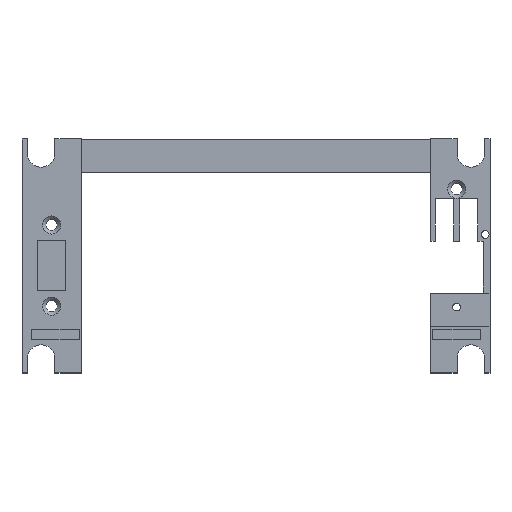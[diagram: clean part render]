
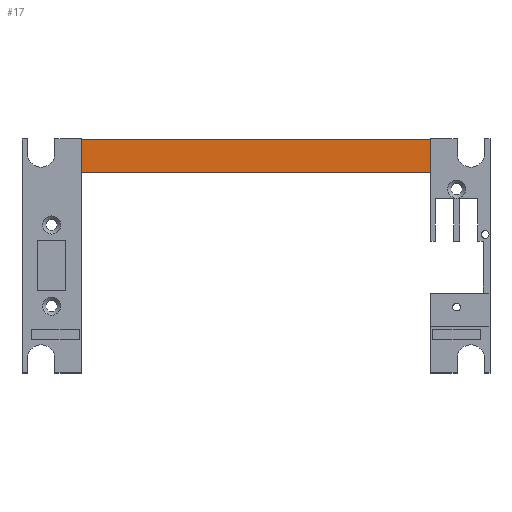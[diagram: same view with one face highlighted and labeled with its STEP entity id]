
A CAD part, top view. The second image highlights one B-rep face of the part: STEP entity #17.
In plain terms, the highlighted planar face has unit normal (0, 0, 1).
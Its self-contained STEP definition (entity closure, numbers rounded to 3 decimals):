
#17 = ADVANCED_FACE('',(#18),#52,.T.);
#18 = FACE_BOUND('',#19,.T.);
#19 = EDGE_LOOP('',(#20,#30,#38,#46));
#20 = ORIENTED_EDGE('',*,*,#21,.F.);
#21 = EDGE_CURVE('',#22,#24,#26,.T.);
#22 = VERTEX_POINT('',#23);
#23 = CARTESIAN_POINT('',(-36.6,128.,7.5));
#24 = VERTEX_POINT('',#25);
#25 = CARTESIAN_POINT('',(-36.6,135.,7.5));
#26 = LINE('',#27,#28);
#27 = CARTESIAN_POINT('',(-36.6,128.,7.5));
#28 = VECTOR('',#29,1.);
#29 = DIRECTION('',(0.,1.,0.));
#30 = ORIENTED_EDGE('',*,*,#31,.T.);
#31 = EDGE_CURVE('',#22,#32,#34,.T.);
#32 = VERTEX_POINT('',#33);
#33 = CARTESIAN_POINT('',(36.6,128.,7.5));
#34 = LINE('',#35,#36);
#35 = CARTESIAN_POINT('',(-49.,128.,7.5));
#36 = VECTOR('',#37,1.);
#37 = DIRECTION('',(1.,0.,0.));
#38 = ORIENTED_EDGE('',*,*,#39,.T.);
#39 = EDGE_CURVE('',#32,#40,#42,.T.);
#40 = VERTEX_POINT('',#41);
#41 = CARTESIAN_POINT('',(36.6,135.,7.5));
#42 = LINE('',#43,#44);
#43 = CARTESIAN_POINT('',(36.6,128.,7.5));
#44 = VECTOR('',#45,1.);
#45 = DIRECTION('',(0.,1.,0.));
#46 = ORIENTED_EDGE('',*,*,#47,.F.);
#47 = EDGE_CURVE('',#24,#40,#48,.T.);
#48 = LINE('',#49,#50);
#49 = CARTESIAN_POINT('',(-49.,135.,7.5));
#50 = VECTOR('',#51,1.);
#51 = DIRECTION('',(1.,0.,0.));
#52 = PLANE('',#53);
#53 = AXIS2_PLACEMENT_3D('',#54,#55,#56);
#54 = CARTESIAN_POINT('',(-49.,128.,7.5));
#55 = DIRECTION('',(0.,0.,1.));
#56 = DIRECTION('',(1.,0.,0.));
